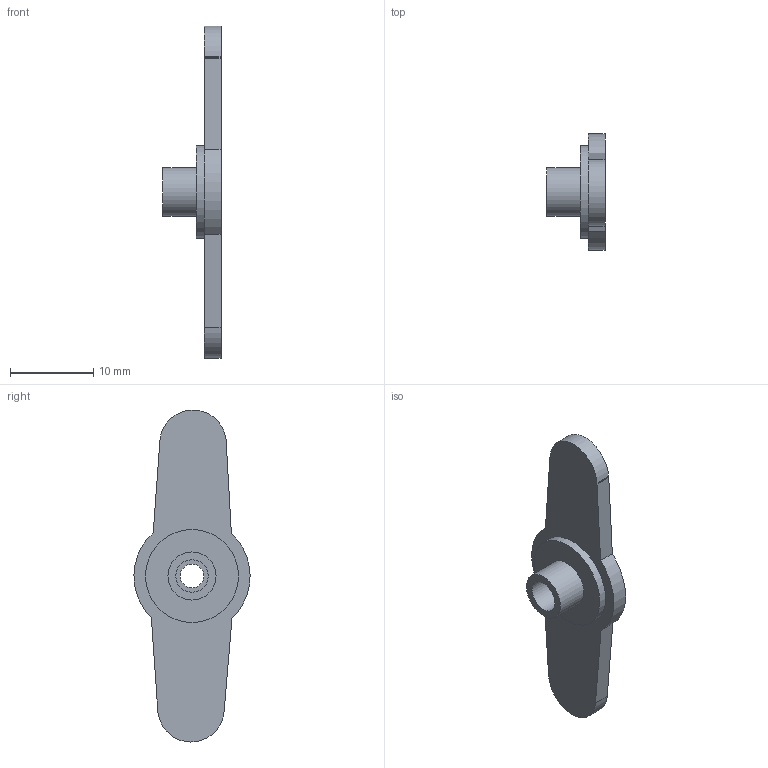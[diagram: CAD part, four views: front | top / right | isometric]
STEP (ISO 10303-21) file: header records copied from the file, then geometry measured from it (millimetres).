
FILE_DESCRIPTION(/* description */ (''),/* implementation_level */ '2;1');
FILE_NAME(/* name */ '/Users/simonhu/OneDrive - FH JOANNEUM/5Semsester/Projekt/3D/turret_final/servo_adapt_2.step',/* time_stamp */ '2022-01-27T19:35:54+01:00',/* author */ (''),/* organization */ (''),/* preprocessor_version */ 'ST-DEVELOPER v18.1',/* originating_system */ 'Autodesk Translation Framework v10.13.0.1454',/* authorisation */ '');
FILE_SCHEMA (('AUTOMOTIVE_DESIGN { 1 0 10303 214 3 1 1 }'));
Length unit declared in the file: millimetre
Products named in the file (1): servo_arm
Bounding box: 7 x 14 x 40 mm (x, y, z)
Volume: 861.8 mm3; surface area: 1105.3 mm2
Topology: 1 solids, 1 shells, 21 faces, 45 edges, 30 vertices
Faces by surface type: plane 11, cylinder 10
Full cylindrical faces by diameter (mm): 2.828 x1, 3.9 x1, 5 x1, 5.79 x1, 11.2 x1
Entity records: 623 total; most frequent: DIRECTION 109, CARTESIAN_POINT 97, ORIENTED_EDGE 90, EDGE_CURVE 45, AXIS2_PLACEMENT_3D 42, VERTEX_POINT 30, EDGE_LOOP 27, LINE 25
